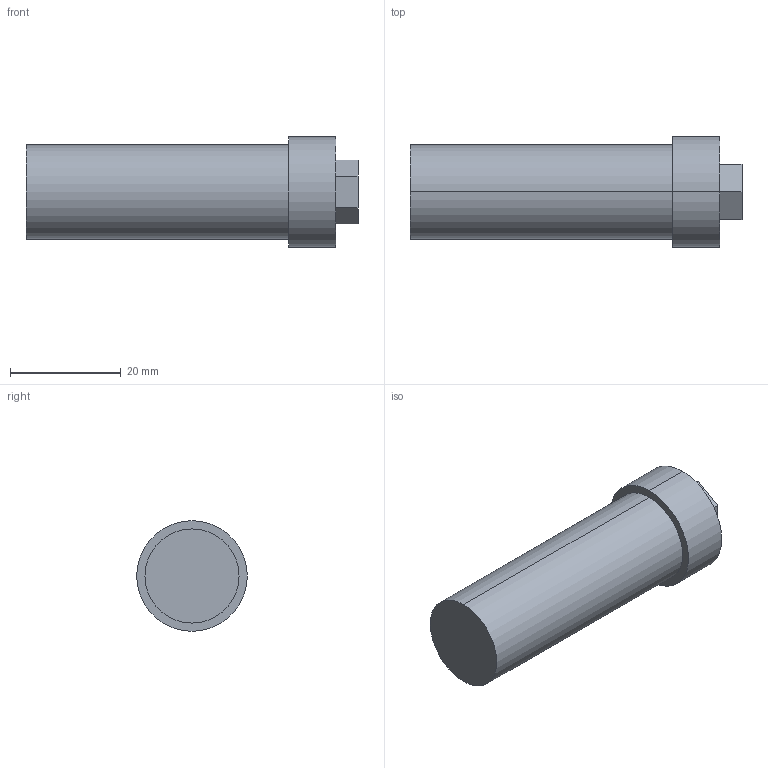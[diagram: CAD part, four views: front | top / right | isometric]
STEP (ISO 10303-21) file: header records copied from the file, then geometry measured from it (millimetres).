
FILE_DESCRIPTION (( 'STEP AP203' ), '1' );
FILE_NAME ('chuanganqi_1.STEP', '2023-04-06T07:04:03', ( '' ), ( '' ), 'SwSTEP 2.0', 'SolidWorks 2016', '' );
FILE_SCHEMA (( 'CONFIG_CONTROL_DESIGN' ));
Length unit declared in the file: millimetre
Products named in the file (1): chuanganqi_1
Bounding box: 60 x 20 x 20 mm (x, y, z)
Volume: 13798.3 mm3; surface area: 3837.8 mm2
Topology: 1 solids, 1 shells, 14 faces, 30 edges, 20 vertices
Faces by surface type: plane 10, cylinder 4
Entity records: 459 total; most frequent: DIRECTION 68, CARTESIAN_POINT 65, ORIENTED_EDGE 60, EDGE_CURVE 30, AXIS2_PLACEMENT_3D 23, VECTOR 22, LINE 22, VERTEX_POINT 20
